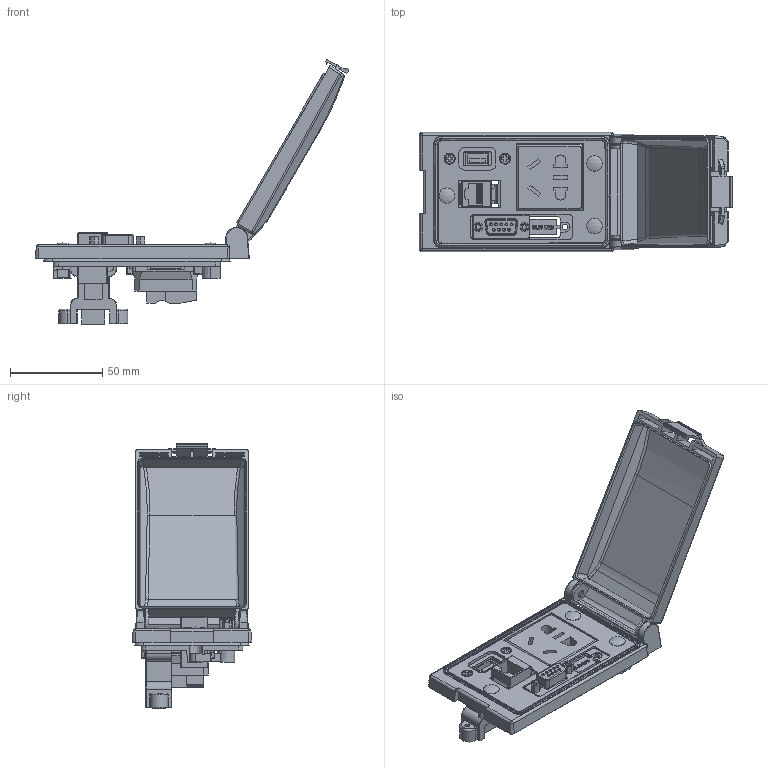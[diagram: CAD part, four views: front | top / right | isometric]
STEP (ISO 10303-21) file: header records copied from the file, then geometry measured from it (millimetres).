
FILE_DESCRIPTION (( 'STEP AP203' ), '1' );
FILE_NAME ('9145209.STEP', '2020-11-24T09:11:22', ( '' ), ( '' ), 'SwSTEP 2.0', 'SolidWorks 2016', '' );
FILE_SCHEMA (( 'CONFIG_CONTROL_DESIGN' ));
Products named in the file (1): 9145209
Bounding box: 169.88 x 65 x 143.28 mm (x, y, z)
Volume: 98397.9 mm3; surface area: 69764.6 mm2
Topology: 7 solids, 14 shells, 2250 faces, 5888 edges, 3707 vertices
Faces by surface type: plane 933, cylinder 759, bspline 260, cone 169, torus 95, sphere 34
Entity records: 88889 total; most frequent: CARTESIAN_POINT 36621, ORIENTED_EDGE 11646, DIRECTION 9641, EDGE_CURVE 5823, VERTEX_POINT 3700, AXIS2_PLACEMENT_3D 3266, LINE 3109, VECTOR 3109
